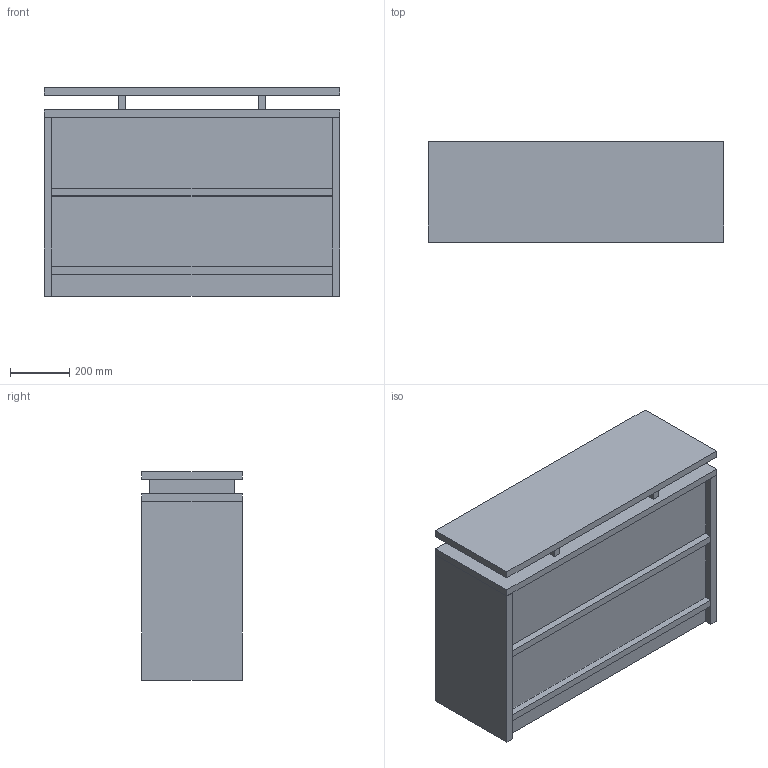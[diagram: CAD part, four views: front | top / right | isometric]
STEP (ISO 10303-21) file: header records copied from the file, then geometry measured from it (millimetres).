
FILE_DESCRIPTION(/* description */ (''),/* implementation_level */ '2;1');
FILE_NAME(/* name */ 'FRAMA_Ratio-Chest-3D',/* time_stamp */ '2025-10-27T10:12:10+01:00',/* author */ (''),/* organization */ (''),/* preprocessor_version */ 'ST-DEVELOPER v16.5',/* originating_system */ 'Rhino 7.38',/* authorisation */ '');
FILE_SCHEMA (('CONFIG_CONTROL_DESIGN'));
Length unit declared in the file: millimetre
Products named in the file (1): Document
Bounding box: 1000 x 340 x 705 mm (x, y, z)
Volume: 61283750 mm3; surface area: 6297350 mm2
Topology: 13 solids, 13 shells, 78 faces, 156 edges, 104 vertices
Faces by surface type: plane 78
Entity records: 1808 total; most frequent: CARTESIAN_POINT 496, ORIENTED_EDGE 312, EDGE_CURVE 156, B_SPLINE_CURVE_WITH_KNOTS 156, VERTEX_POINT 104, DIRECTION 82, AXIS2_PLACEMENT_3D 80, ADVANCED_FACE 78
